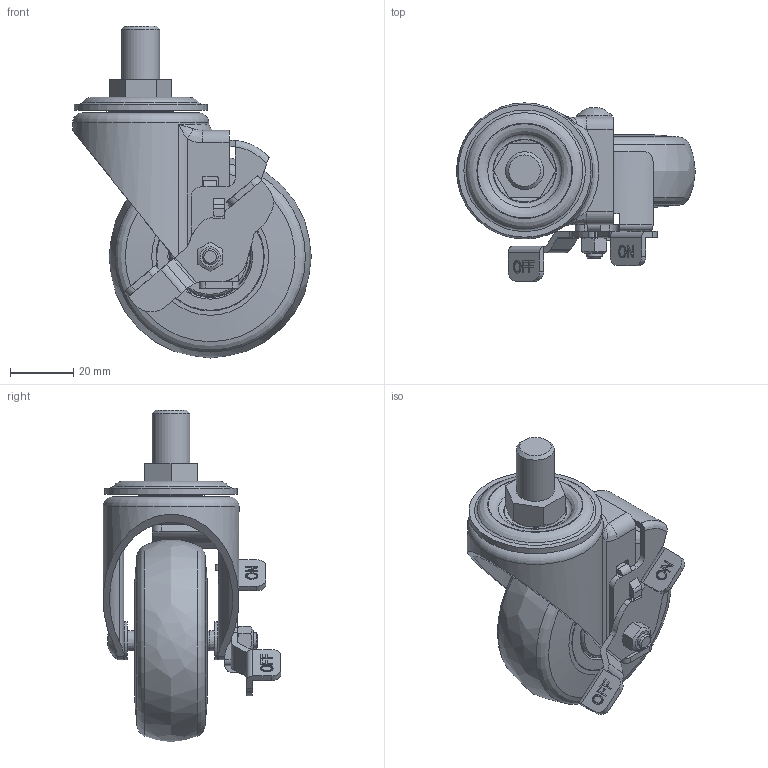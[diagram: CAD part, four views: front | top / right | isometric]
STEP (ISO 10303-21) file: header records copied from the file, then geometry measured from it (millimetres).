
FILE_DESCRIPTION(/* description */ (''),/* implementation_level */ '2;1');
FILE_NAME(/* name */ 'C:\Users\admin\Desktop\JYS\14.제품도면\GL-SERIES\GL-65-BSS-EUS-HP.stp',/* time_stamp */ '2024-01-11T17:06:10+09:00',/* author */ ('admin'),/* organization */ (''),/* preprocessor_version */ 'ST-DEVELOPER v18.1',/* originating_system */ 'Autodesk Inventor 2021',/* authorisation */ '');
FILE_SCHEMA (('AUTOMOTIVE_DESIGN { 1 0 10303 214 3 1 1 }'));
Length unit declared in the file: millimetre
Products named in the file (3): GL-65-BSS-EUS; GL-65-BSS; GDS-65-WHEEL_Sub Assy_Rev01
Assembly tree (2 placements, depth 2):
  GL-65-BSS-EUS
    GL-65-BSS
    GDS-65-WHEEL_Sub Assy_Rev01
Bounding box: 75.5 x 56.27 x 105 mm (x, y, z)
Volume: 87655.4 mm3; surface area: 35519.6 mm2
Topology: 3 solids, 3 shells, 457 faces, 1171 edges, 764 vertices
Faces by surface type: plane 220, cylinder 88, bspline 79, torus 44, cone 26
Full cylindrical faces by diameter (mm): 5 x1, 6 x1, 6.2 x1, 7 x1, 11 x1, 11.1 x1, 11.5 x1, 12 x1, 21.004 x1, 25 x2, 33.804 x1, 39 x1, 42 x1, 43 x1
Entity records: 15247 total; most frequent: CARTESIAN_POINT 4233, ORIENTED_EDGE 2332, DIRECTION 2111, EDGE_CURVE 1166, VERTEX_POINT 764, AXIS2_PLACEMENT_3D 749, LINE 613, VECTOR 613
